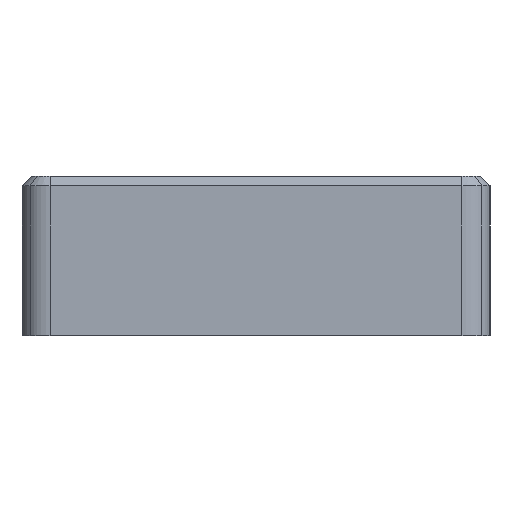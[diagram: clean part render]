
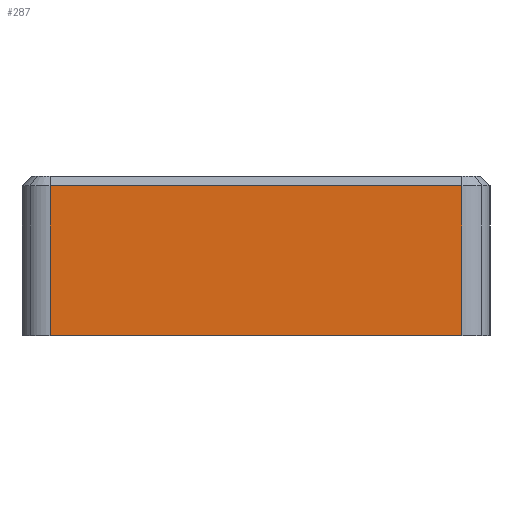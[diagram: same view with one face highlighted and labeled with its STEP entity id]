
A CAD part, left-side view. The second image highlights one B-rep face of the part: STEP entity #287.
In plain terms, the highlighted planar face has unit normal (-1, 0, 0).
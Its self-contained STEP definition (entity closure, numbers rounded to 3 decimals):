
#287=ADVANCED_FACE('',(#585),#586,.F.);
#585=FACE_OUTER_BOUND('',#883,.T.);
#586=PLANE('',#884);
#883=EDGE_LOOP('',(#1692,#1693,#1694,#1695));
#884=AXIS2_PLACEMENT_3D('',#1696,#1697,#1698);
#1692=ORIENTED_EDGE('',*,*,#1813,.F.);
#1693=ORIENTED_EDGE('',*,*,#1994,.F.);
#1694=ORIENTED_EDGE('',*,*,#2026,.F.);
#1695=ORIENTED_EDGE('',*,*,#1914,.F.);
#1696=CARTESIAN_POINT('',(-130.0,0.,3.5));
#1697=DIRECTION('',(1.0,0.0,0.0));
#1698=DIRECTION('',(0.0,0.0,-1.0));
#1813=EDGE_CURVE('',#2178,#2173,#2180,.T.);
#1914=EDGE_CURVE('',#2173,#2350,#2351,.T.);
#1994=EDGE_CURVE('',#2461,#2178,#2463,.T.);
#2026=EDGE_CURVE('',#2350,#2461,#2504,.T.);
#2173=VERTEX_POINT('',#2680);
#2178=VERTEX_POINT('',#2687);
#2180=LINE('',#2690,#2691);
#2350=VERTEX_POINT('',#2915);
#2351=LINE('',#2916,#2917);
#2461=VERTEX_POINT('',#3053);
#2463=LINE('',#3055,#3056);
#2504=LINE('',#3108,#3109);
#2680=CARTESIAN_POINT('',(-130.0,-22.0,11.0));
#2687=CARTESIAN_POINT('',(-130.0,22.0,11.0));
#2690=CARTESIAN_POINT('',(-130.0,0.,11.0));
#2691=VECTOR('',#3292,1.0);
#2915=CARTESIAN_POINT('',(-130.0,-22.0,-5.));
#2916=CARTESIAN_POINT('',(-130.0,-22.0,3.5));
#2917=VECTOR('',#3419,1.0);
#3053=CARTESIAN_POINT('',(-130.0,22.0,-5.));
#3055=CARTESIAN_POINT('',(-130.0,22.0,3.5));
#3056=VECTOR('',#3548,1.0);
#3108=CARTESIAN_POINT('',(-130.0,0.,-5.));
#3109=VECTOR('',#3590,1.0);
#3292=DIRECTION('',(0.0,-1.0,0.0));
#3419=DIRECTION('',(0.0,0.0,-1.0));
#3548=DIRECTION('',(0.0,0.0,1.0));
#3590=DIRECTION('',(0.0,1.0,0.0));
